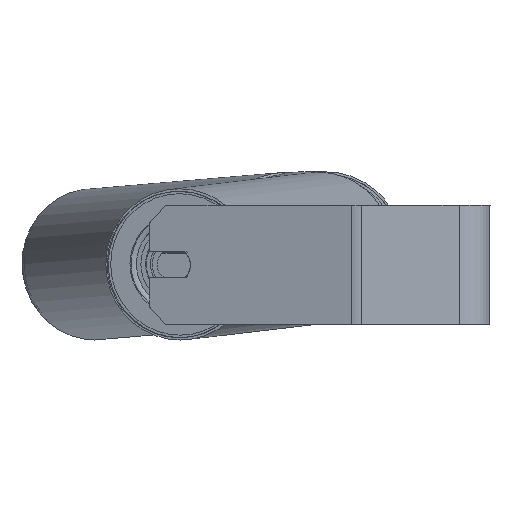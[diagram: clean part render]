
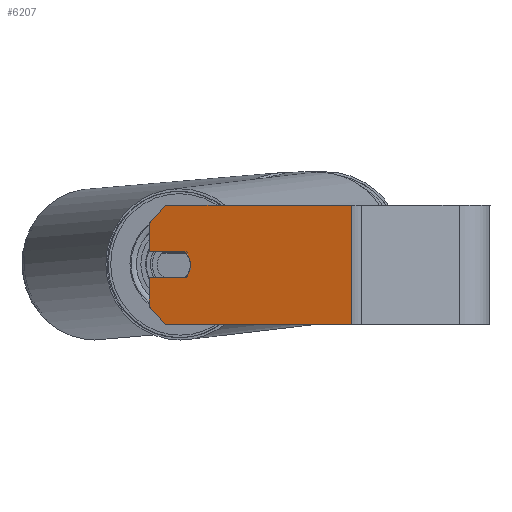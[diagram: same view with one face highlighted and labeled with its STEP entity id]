
A CAD part, left-side view. The second image highlights one B-rep face of the part: STEP entity #6207.
In plain terms, the highlighted planar face has unit normal (-0.963, 0.268, 0) as drawn and (-0.951, 0.309, 0) by its records, which use the part's own axes.
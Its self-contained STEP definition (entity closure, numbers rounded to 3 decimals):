
#571=CIRCLE('',#6731,10.);
#1276=FACE_OUTER_BOUND('',#1605,.T.);
#1605=EDGE_LOOP('',(#4468,#4469,#4470,#4471,#4472,#4473,#4474,#4475,#4476,
#4477));
#2077=LINE('',#10053,#2388);
#2081=LINE('',#10062,#2392);
#2085=LINE('',#10072,#2396);
#2086=LINE('',#10075,#2397);
#2089=LINE('',#10081,#2400);
#2090=LINE('',#10083,#2401);
#2091=LINE('',#10085,#2402);
#2092=LINE('',#10087,#2403);
#2093=LINE('',#10088,#2404);
#2388=VECTOR('',#7862,10.);
#2392=VECTOR('',#7868,10.);
#2396=VECTOR('',#7880,10.);
#2397=VECTOR('',#7883,10.);
#2400=VECTOR('',#7888,10.);
#2401=VECTOR('',#7889,10.);
#2402=VECTOR('',#7890,10.);
#2403=VECTOR('',#7891,10.);
#2404=VECTOR('',#7892,10.);
#2687=VERTEX_POINT('',#10050);
#2688=VERTEX_POINT('',#10052);
#2691=VERTEX_POINT('',#10059);
#2692=VERTEX_POINT('',#10061);
#2694=VERTEX_POINT('',#10070);
#2695=VERTEX_POINT('',#10074);
#2697=VERTEX_POINT('',#10080);
#2698=VERTEX_POINT('',#10082);
#2699=VERTEX_POINT('',#10084);
#2700=VERTEX_POINT('',#10086);
#3439=EDGE_CURVE('',#2688,#2687,#2077,.T.);
#3443=EDGE_CURVE('',#2692,#2691,#2081,.T.);
#3446=EDGE_CURVE('',#2687,#2692,#571,.T.);
#3449=EDGE_CURVE('',#2694,#2691,#2085,.T.);
#3450=EDGE_CURVE('',#2688,#2695,#2086,.T.);
#3453=EDGE_CURVE('',#2697,#2694,#2089,.T.);
#3454=EDGE_CURVE('',#2697,#2698,#2090,.T.);
#3455=EDGE_CURVE('',#2699,#2698,#2091,.T.);
#3456=EDGE_CURVE('',#2699,#2700,#2092,.T.);
#3457=EDGE_CURVE('',#2695,#2700,#2093,.T.);
#4468=ORIENTED_EDGE('',*,*,#3439,.T.);
#4469=ORIENTED_EDGE('',*,*,#3446,.T.);
#4470=ORIENTED_EDGE('',*,*,#3443,.T.);
#4471=ORIENTED_EDGE('',*,*,#3449,.F.);
#4472=ORIENTED_EDGE('',*,*,#3453,.F.);
#4473=ORIENTED_EDGE('',*,*,#3454,.T.);
#4474=ORIENTED_EDGE('',*,*,#3455,.F.);
#4475=ORIENTED_EDGE('',*,*,#3456,.T.);
#4476=ORIENTED_EDGE('',*,*,#3457,.F.);
#4477=ORIENTED_EDGE('',*,*,#3450,.F.);
#6058=PLANE('',#6734);
#6207=ADVANCED_FACE('',(#1276),#6058,.T.);
#6731=AXIS2_PLACEMENT_3D('',#10066,#7874,#7875);
#6734=AXIS2_PLACEMENT_3D('',#10079,#7886,#7887);
#7862=DIRECTION('',(-0.309,-0.951,0.));
#7868=DIRECTION('',(0.309,0.951,0.));
#7874=DIRECTION('center_axis',(0.951,-0.309,0.));
#7875=DIRECTION('ref_axis',(0.204,0.629,0.75));
#7880=DIRECTION('',(0.,0.,1.));
#7883=DIRECTION('',(0.,0.,1.));
#7886=DIRECTION('center_axis',(-0.951,0.309,0.));
#7887=DIRECTION('ref_axis',(0.,0.,1.));
#7888=DIRECTION('',(0.219,0.672,0.707));
#7889=DIRECTION('',(-0.309,-0.951,0.));
#7890=DIRECTION('',(0.,0.,-1.));
#7891=DIRECTION('',(0.309,0.951,0.));
#7892=DIRECTION('',(-0.219,-0.672,0.707));
#10050=CARTESIAN_POINT('',(-599.661,170.798,7.5));
#10052=CARTESIAN_POINT('',(-592.981,191.354,7.5));
#10053=CARTESIAN_POINT('',(-615.83,121.032,7.5));
#10059=CARTESIAN_POINT('',(-592.981,191.354,-7.5));
#10061=CARTESIAN_POINT('',(-599.661,170.798,-7.5));
#10062=CARTESIAN_POINT('',(-603.993,157.465,-7.5));
#10066=CARTESIAN_POINT('Origin',(-597.617,177.088,0.));
#10070=CARTESIAN_POINT('',(-592.981,191.354,-25.));
#10072=CARTESIAN_POINT('',(-592.981,191.354,0.));
#10074=CARTESIAN_POINT('',(-592.981,191.354,25.));
#10075=CARTESIAN_POINT('',(-592.981,191.354,0.));
#10079=CARTESIAN_POINT('Origin',(-632.,71.267,0.));
#10080=CARTESIAN_POINT('',(-596.071,181.844,-35.));
#10081=CARTESIAN_POINT('',(-601.577,164.899,-52.817));
#10082=CARTESIAN_POINT('',(-631.07,74.129,-35.));
#10083=CARTESIAN_POINT('',(-592.981,191.354,-35.));
#10084=CARTESIAN_POINT('',(-631.07,74.129,35.));
#10085=CARTESIAN_POINT('',(-631.07,74.129,0.));
#10086=CARTESIAN_POINT('',(-596.071,181.844,35.));
#10087=CARTESIAN_POINT('',(-592.981,191.354,35.));
#10088=CARTESIAN_POINT('',(-601.577,164.899,52.817));
